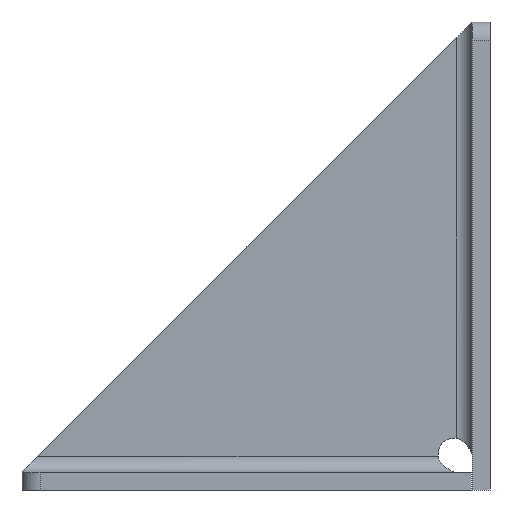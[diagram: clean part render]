
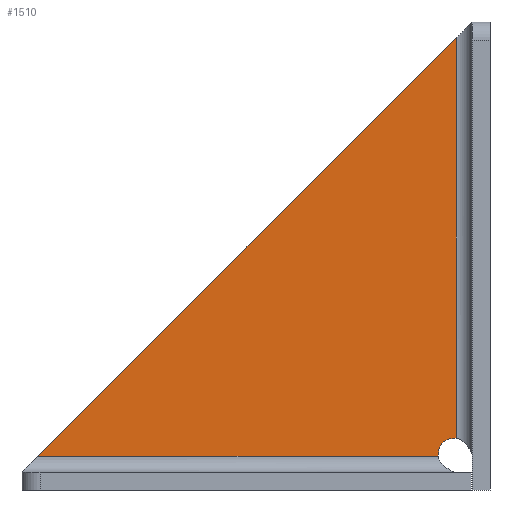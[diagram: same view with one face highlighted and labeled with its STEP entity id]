
A CAD part, left-side view. The second image highlights one B-rep face of the part: STEP entity #1510.
In plain terms, the highlighted planar face has unit normal (-1, 0, 0).
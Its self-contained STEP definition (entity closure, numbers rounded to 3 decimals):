
#20 = DIRECTION ( 'NONE',  ( 0., -1., 0. ) ) ;
#44 = CARTESIAN_POINT ( 'NONE',  ( 14.783, -6.203, 5.6 ) ) ;
#150 = CARTESIAN_POINT ( 'NONE',  ( 14.783, -11.803, 78. ) ) ;
#173 = DIRECTION ( 'NONE',  ( 0., -1., 0. ) ) ;
#187 = CARTESIAN_POINT ( 'NONE',  ( 14.783, -9.203, 8.6 ) ) ;
#189 = VERTEX_POINT ( 'NONE', #187 ) ;
#215 = VERTEX_POINT ( 'NONE', #1243 ) ;
#295 = LINE ( 'NONE', #781, #1512 ) ;
#327 = ORIENTED_EDGE ( 'NONE', *, *, #870, .T. ) ;
#330 = VECTOR ( 'NONE', #1207, 1000. ) ;
#341 = VERTEX_POINT ( 'NONE', #1406 ) ;
#451 = VECTOR ( 'NONE', #1322, 1000. ) ;
#498 = ORIENTED_EDGE ( 'NONE', *, *, #1326, .F. ) ;
#523 = VERTEX_POINT ( 'NONE', #44 ) ;
#544 = CARTESIAN_POINT ( 'NONE',  ( 14.783, 0., 8.6 ) ) ;
#567 = LINE ( 'NONE', #905, #1470 ) ;
#575 = FACE_OUTER_BOUND ( 'NONE', #1255, .T. ) ;
#610 = AXIS2_PLACEMENT_3D ( 'NONE', #1227, #1348, #636 ) ;
#623 = CARTESIAN_POINT ( 'NONE',  ( 14.783, -6.203, 0. ) ) ;
#627 = LINE ( 'NONE', #623, #330 ) ;
#636 = DIRECTION ( 'NONE',  ( 0., -1., 0. ) ) ;
#649 = AXIS2_PLACEMENT_3D ( 'NONE', #1423, #710, #20 ) ;
#665 = DIRECTION ( 'NONE',  ( 0., -1., 0. ) ) ;
#709 = VERTEX_POINT ( 'NONE', #1016 ) ;
#710 = DIRECTION ( 'NONE',  ( 1., 0., 0. ) ) ;
#758 = ORIENTED_EDGE ( 'NONE', *, *, #790, .T. ) ;
#781 = CARTESIAN_POINT ( 'NONE',  ( 14.783, -6.203, 5.6 ) ) ;
#790 = EDGE_CURVE ( 'NONE', #1399, #523, #295, .T. ) ;
#805 = EDGE_CURVE ( 'NONE', #189, #341, #567, .T. ) ;
#870 = EDGE_CURVE ( 'NONE', #709, #189, #1393, .T. ) ;
#905 = CARTESIAN_POINT ( 'NONE',  ( 14.783, -9.203, 0. ) ) ;
#982 = CARTESIAN_POINT ( 'NONE',  ( 14.783, 60.597, 5.6 ) ) ;
#993 = ORIENTED_EDGE ( 'NONE', *, *, #805, .T. ) ;
#1016 = CARTESIAN_POINT ( 'NONE',  ( 14.783, -8.703, 8.6 ) ) ;
#1074 = LINE ( 'NONE', #150, #451 ) ;
#1083 = VECTOR ( 'NONE', #173, 1000. ) ;
#1198 = EDGE_CURVE ( 'NONE', #523, #215, #627, .T. ) ;
#1207 = DIRECTION ( 'NONE',  ( 0., 0., 1. ) ) ;
#1227 = CARTESIAN_POINT ( 'NONE',  ( 14.783, 0., 0. ) ) ;
#1243 = CARTESIAN_POINT ( 'NONE',  ( 14.783, -6.203, 6.1 ) ) ;
#1255 = EDGE_LOOP ( 'NONE', ( #498, #758, #1310, #1400, #327, #993 ) ) ;
#1270 = EDGE_CURVE ( 'NONE', #215, #709, #1463, .T. ) ;
#1310 = ORIENTED_EDGE ( 'NONE', *, *, #1198, .T. ) ;
#1322 = DIRECTION ( 'NONE',  ( 0., -0.707, 0.707 ) ) ;
#1326 = EDGE_CURVE ( 'NONE', #1399, #341, #1074, .T. ) ;
#1340 = PLANE ( 'NONE',  #610 ) ;
#1348 = DIRECTION ( 'NONE',  ( -1., 0., 0. ) ) ;
#1377 = DIRECTION ( 'NONE',  ( 0., 0., 1. ) ) ;
#1393 = LINE ( 'NONE', #544, #1083 ) ;
#1399 = VERTEX_POINT ( 'NONE', #982 ) ;
#1400 = ORIENTED_EDGE ( 'NONE', *, *, #1270, .T. ) ;
#1406 = CARTESIAN_POINT ( 'NONE',  ( 14.783, -9.203, 75.4 ) ) ;
#1423 = CARTESIAN_POINT ( 'NONE',  ( 14.783, -8.703, 6.1 ) ) ;
#1463 = CIRCLE ( 'NONE', #649, 2.5 ) ;
#1470 = VECTOR ( 'NONE', #1377, 1000. ) ;
#1510 = ADVANCED_FACE ( 'NONE', ( #575 ), #1340, .T. ) ;
#1512 = VECTOR ( 'NONE', #665, 1000. ) ;
